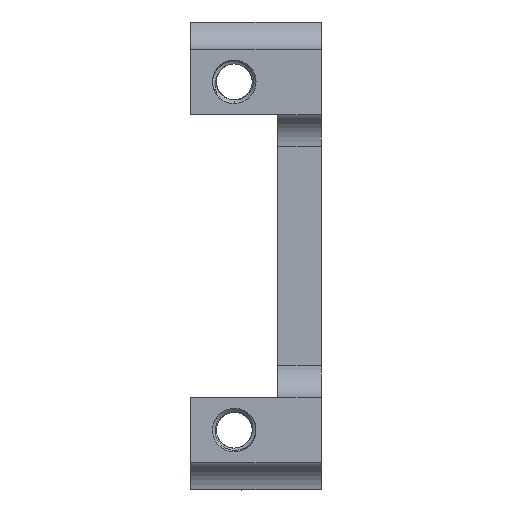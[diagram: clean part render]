
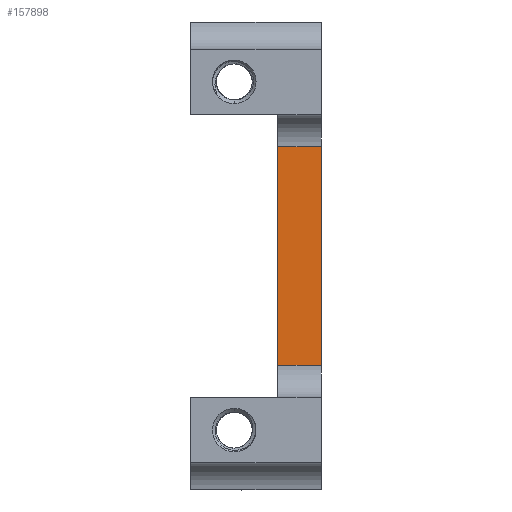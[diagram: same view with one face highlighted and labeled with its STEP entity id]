
A CAD part, left-side view. The second image highlights one B-rep face of the part: STEP entity #157898.
In plain terms, the highlighted planar face has unit normal (-1, 0, 0).
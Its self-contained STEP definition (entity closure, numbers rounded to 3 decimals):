
#5440 = CARTESIAN_POINT ( 'NONE',  ( -19., 0., 10.042 ) ) ;
#5904 = EDGE_CURVE ( 'NONE', #236717, #156989, #285857, .T. ) ;
#16302 = VERTEX_POINT ( 'NONE', #226630 ) ;
#22300 = VECTOR ( 'NONE', #47438, 1000. ) ;
#47438 = DIRECTION ( 'NONE',  ( 0., 0., 1. ) ) ;
#60985 = DIRECTION ( 'NONE',  ( 0., -1., 0. ) ) ;
#68835 = CARTESIAN_POINT ( 'NONE',  ( -19., 4., -10.042 ) ) ;
#73422 = EDGE_CURVE ( 'NONE', #156989, #79181, #152137, .T. ) ;
#79181 = VERTEX_POINT ( 'NONE', #5440 ) ;
#82590 = CARTESIAN_POINT ( 'NONE',  ( -19., 4., 0. ) ) ;
#103994 = LINE ( 'NONE', #258442, #22300 ) ;
#108282 = AXIS2_PLACEMENT_3D ( 'NONE', #82590, #266661, #144360 ) ;
#117397 = ORIENTED_EDGE ( 'NONE', *, *, #5904, .F. ) ;
#126869 = VECTOR ( 'NONE', #60985, 1000. ) ;
#144360 = DIRECTION ( 'NONE',  ( 0., 0., -1. ) ) ;
#145019 = ORIENTED_EDGE ( 'NONE', *, *, #73422, .F. ) ;
#146118 = DIRECTION ( 'NONE',  ( 0., -1., 0. ) ) ;
#152137 = LINE ( 'NONE', #209300, #204922 ) ;
#156989 = VERTEX_POINT ( 'NONE', #199847 ) ;
#157898 = ADVANCED_FACE ( 'NONE', ( #265179 ), #271994, .F. ) ;
#169649 = EDGE_CURVE ( 'NONE', #236717, #16302, #179641, .T. ) ;
#179641 = LINE ( 'NONE', #367357, #126869 ) ;
#182559 = CARTESIAN_POINT ( 'NONE',  ( -19., 4., 0. ) ) ;
#199847 = CARTESIAN_POINT ( 'NONE',  ( -19., 4., 10.042 ) ) ;
#204922 = VECTOR ( 'NONE', #146118, 1000. ) ;
#209300 = CARTESIAN_POINT ( 'NONE',  ( -19., 4., 10.042 ) ) ;
#226630 = CARTESIAN_POINT ( 'NONE',  ( -19., 0., -10.042 ) ) ;
#229535 = EDGE_LOOP ( 'NONE', ( #264123, #145019, #117397, #235334 ) ) ;
#230175 = EDGE_CURVE ( 'NONE', #16302, #79181, #103994, .T. ) ;
#235334 = ORIENTED_EDGE ( 'NONE', *, *, #169649, .T. ) ;
#236717 = VERTEX_POINT ( 'NONE', #68835 ) ;
#258442 = CARTESIAN_POINT ( 'NONE',  ( -19., 0., 0. ) ) ;
#264123 = ORIENTED_EDGE ( 'NONE', *, *, #230175, .T. ) ;
#265179 = FACE_OUTER_BOUND ( 'NONE', #229535, .T. ) ;
#266661 = DIRECTION ( 'NONE',  ( 1., 0., 0. ) ) ;
#271994 = PLANE ( 'NONE',  #108282 ) ;
#285857 = LINE ( 'NONE', #182559, #343777 ) ;
#343777 = VECTOR ( 'NONE', #398828, 1000. ) ;
#367357 = CARTESIAN_POINT ( 'NONE',  ( -19., 4., -10.042 ) ) ;
#398828 = DIRECTION ( 'NONE',  ( 0., 0., 1. ) ) ;
